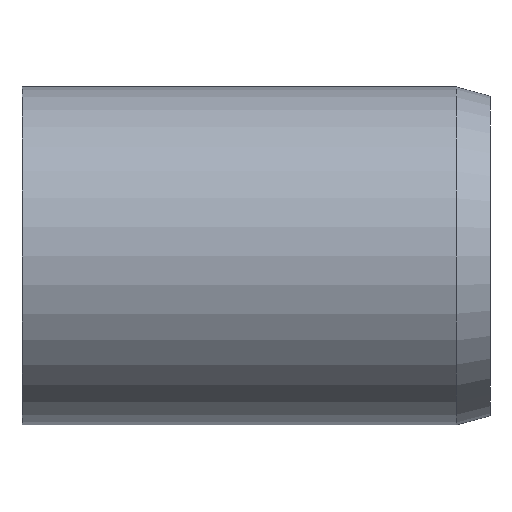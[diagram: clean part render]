
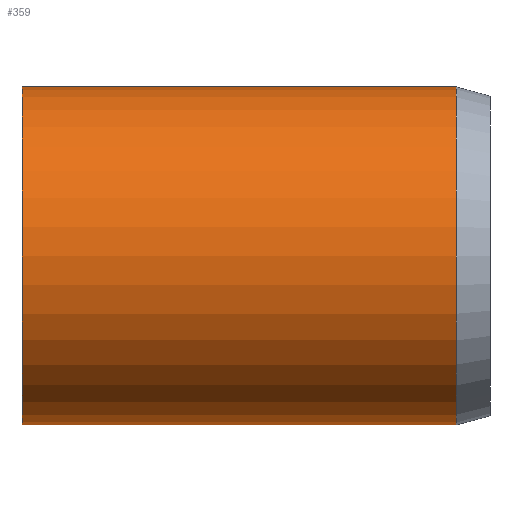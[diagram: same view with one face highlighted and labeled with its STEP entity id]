
A CAD part, left-side view. The second image highlights one B-rep face of the part: STEP entity #359.
In plain terms, the highlighted cylindrical face has radius 13 mm (diameter 26 mm), a partial arc.
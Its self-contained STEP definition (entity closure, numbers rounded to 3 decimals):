
#7 = EDGE_LOOP ( 'NONE', ( #296, #130, #101, #62 ) ) ;
#16 = AXIS2_PLACEMENT_3D ( 'NONE', #46, #257, #442 ) ;
#22 = CARTESIAN_POINT ( 'NONE',  ( 0., 36., -13. ) ) ;
#40 = CARTESIAN_POINT ( 'NONE',  ( 0., 36., 0. ) ) ;
#46 = CARTESIAN_POINT ( 'NONE',  ( 0., 2.6, 0. ) ) ;
#59 = VERTEX_POINT ( 'NONE', #113 ) ;
#62 = ORIENTED_EDGE ( 'NONE', *, *, #161, .F. ) ;
#79 = DIRECTION ( 'NONE',  ( 0., 0., -1. ) ) ;
#98 = VERTEX_POINT ( 'NONE', #241 ) ;
#101 = ORIENTED_EDGE ( 'NONE', *, *, #430, .T. ) ;
#113 = CARTESIAN_POINT ( 'NONE',  ( 0., 2.6, 13. ) ) ;
#122 = CARTESIAN_POINT ( 'NONE',  ( 0., 0., 0. ) ) ;
#123 = VECTOR ( 'NONE', #317, 1000. ) ;
#130 = ORIENTED_EDGE ( 'NONE', *, *, #198, .T. ) ;
#144 = AXIS2_PLACEMENT_3D ( 'NONE', #40, #466, #79 ) ;
#145 = AXIS2_PLACEMENT_3D ( 'NONE', #122, #393, #373 ) ;
#161 = EDGE_CURVE ( 'NONE', #59, #365, #252, .T. ) ;
#174 = CARTESIAN_POINT ( 'NONE',  ( 0., 0., -13. ) ) ;
#180 = VECTOR ( 'NONE', #457, 1000. ) ;
#198 = EDGE_CURVE ( 'NONE', #98, #234, #419, .T. ) ;
#234 = VERTEX_POINT ( 'NONE', #22 ) ;
#237 = LINE ( 'NONE', #174, #123 ) ;
#241 = CARTESIAN_POINT ( 'NONE',  ( 0., 36., 13. ) ) ;
#252 = CIRCLE ( 'NONE', #16, 13. ) ;
#257 = DIRECTION ( 'NONE',  ( 0., -1., 0. ) ) ;
#279 = CYLINDRICAL_SURFACE ( 'NONE', #145, 13. ) ;
#296 = ORIENTED_EDGE ( 'NONE', *, *, #446, .F. ) ;
#317 = DIRECTION ( 'NONE',  ( 0., -1., 0. ) ) ;
#320 = LINE ( 'NONE', #348, #180 ) ;
#348 = CARTESIAN_POINT ( 'NONE',  ( 0., 0., 13. ) ) ;
#359 = ADVANCED_FACE ( 'NONE', ( #394 ), #279, .T. ) ;
#365 = VERTEX_POINT ( 'NONE', #410 ) ;
#373 = DIRECTION ( 'NONE',  ( 0., 0., -1. ) ) ;
#393 = DIRECTION ( 'NONE',  ( 0., -1., 0. ) ) ;
#394 = FACE_OUTER_BOUND ( 'NONE', #7, .T. ) ;
#410 = CARTESIAN_POINT ( 'NONE',  ( 0., 2.6, -13. ) ) ;
#419 = CIRCLE ( 'NONE', #144, 13. ) ;
#430 = EDGE_CURVE ( 'NONE', #234, #365, #237, .T. ) ;
#442 = DIRECTION ( 'NONE',  ( 0., 0., -1. ) ) ;
#446 = EDGE_CURVE ( 'NONE', #98, #59, #320, .T. ) ;
#457 = DIRECTION ( 'NONE',  ( 0., -1., 0. ) ) ;
#466 = DIRECTION ( 'NONE',  ( 0., -1., 0. ) ) ;
